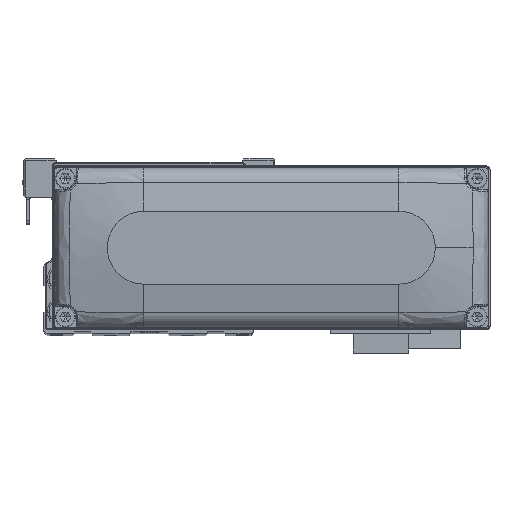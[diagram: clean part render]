
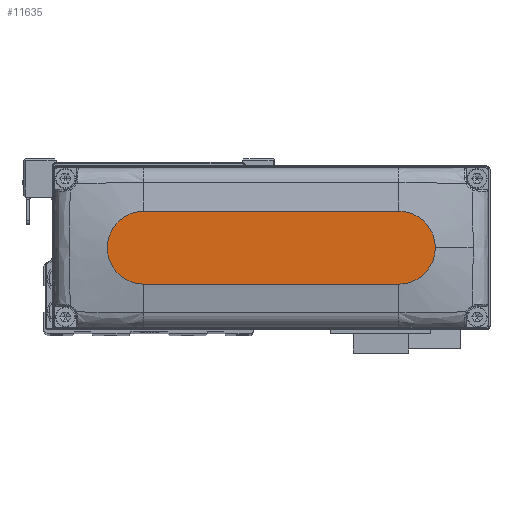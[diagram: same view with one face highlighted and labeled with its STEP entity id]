
A CAD part, top view. The second image highlights one B-rep face of the part: STEP entity #11635.
In plain terms, the highlighted planar face has unit normal (0, 0, 1).
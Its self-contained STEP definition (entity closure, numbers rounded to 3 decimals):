
#734 = DIRECTION ( 'NONE',  ( 1., 0., 0. ) ) ;
#1341 = DIRECTION ( 'NONE',  ( 1., 0., 0. ) ) ;
#1748 = DIRECTION ( 'NONE',  ( 0., 0., 1. ) ) ;
#3372 = EDGE_LOOP ( 'NONE', ( #24478, #7643, #10132, #34796, #35188 ) ) ;
#4161 = DIRECTION ( 'NONE',  ( 0., 0., 1. ) ) ;
#4785 = EDGE_CURVE ( 'NONE', #7563, #14245, #5243, .T. ) ;
#4850 = CARTESIAN_POINT ( 'NONE',  ( -35., 10., 28. ) ) ;
#5243 = CIRCLE ( 'NONE', #26177, 10. ) ;
#6641 = VERTEX_POINT ( 'NONE', #29462 ) ;
#6967 = FACE_OUTER_BOUND ( 'NONE', #3372, .T. ) ;
#7563 = VERTEX_POINT ( 'NONE', #18826 ) ;
#7643 = ORIENTED_EDGE ( 'NONE', *, *, #4785, .T. ) ;
#7686 = VERTEX_POINT ( 'NONE', #7957 ) ;
#7957 = CARTESIAN_POINT ( 'NONE',  ( 35., 10., 28. ) ) ;
#8539 = DIRECTION ( 'NONE',  ( 0., 0., 1. ) ) ;
#10132 = ORIENTED_EDGE ( 'NONE', *, *, #28457, .T. ) ;
#10470 = AXIS2_PLACEMENT_3D ( 'NONE', #29850, #4161, #15590 ) ;
#10535 = CARTESIAN_POINT ( 'NONE',  ( 35., -10., 28. ) ) ;
#11635 = ADVANCED_FACE ( 'NONE', ( #6967 ), #18387, .T. ) ;
#11947 = EDGE_CURVE ( 'NONE', #6641, #7686, #35021, .T. ) ;
#12736 = AXIS2_PLACEMENT_3D ( 'NONE', #15589, #27019, #1341 ) ;
#13173 = DIRECTION ( 'NONE',  ( 1., 0., 0. ) ) ;
#14245 = VERTEX_POINT ( 'NONE', #36680 ) ;
#14975 = LINE ( 'NONE', #26400, #25756 ) ;
#15589 = CARTESIAN_POINT ( 'NONE',  ( 35., 0., 28. ) ) ;
#15590 = DIRECTION ( 'NONE',  ( 1., 0., 0. ) ) ;
#16270 = DIRECTION ( 'NONE',  ( -1., 0., 0. ) ) ;
#18387 = PLANE ( 'NONE',  #10470 ) ;
#18826 = CARTESIAN_POINT ( 'NONE',  ( -35., 10., 28. ) ) ;
#18864 = AXIS2_PLACEMENT_3D ( 'NONE', #27422, #1748, #13173 ) ;
#19976 = DIRECTION ( 'NONE',  ( 1., 0., 0. ) ) ;
#24478 = ORIENTED_EDGE ( 'NONE', *, *, #34967, .T. ) ;
#25756 = VECTOR ( 'NONE', #734, 1000. ) ;
#26177 = AXIS2_PLACEMENT_3D ( 'NONE', #34213, #8539, #19976 ) ;
#26400 = CARTESIAN_POINT ( 'NONE',  ( -35., -10., 28. ) ) ;
#27019 = DIRECTION ( 'NONE',  ( 0., 0., 1. ) ) ;
#27393 = VERTEX_POINT ( 'NONE', #10535 ) ;
#27422 = CARTESIAN_POINT ( 'NONE',  ( 35., 0., 28. ) ) ;
#28457 = EDGE_CURVE ( 'NONE', #14245, #27393, #14975, .T. ) ;
#28909 = CIRCLE ( 'NONE', #12736, 10. ) ;
#29462 = CARTESIAN_POINT ( 'NONE',  ( 45., 0., 28. ) ) ;
#29850 = CARTESIAN_POINT ( 'NONE',  ( 0., 0., 28. ) ) ;
#30536 = LINE ( 'NONE', #4850, #34046 ) ;
#34046 = VECTOR ( 'NONE', #16270, 1000. ) ;
#34213 = CARTESIAN_POINT ( 'NONE',  ( -35., 0., 28. ) ) ;
#34796 = ORIENTED_EDGE ( 'NONE', *, *, #36283, .T. ) ;
#34967 = EDGE_CURVE ( 'NONE', #7686, #7563, #30536, .T. ) ;
#35021 = CIRCLE ( 'NONE', #18864, 10. ) ;
#35188 = ORIENTED_EDGE ( 'NONE', *, *, #11947, .T. ) ;
#36283 = EDGE_CURVE ( 'NONE', #27393, #6641, #28909, .T. ) ;
#36680 = CARTESIAN_POINT ( 'NONE',  ( -35., -10., 28. ) ) ;
